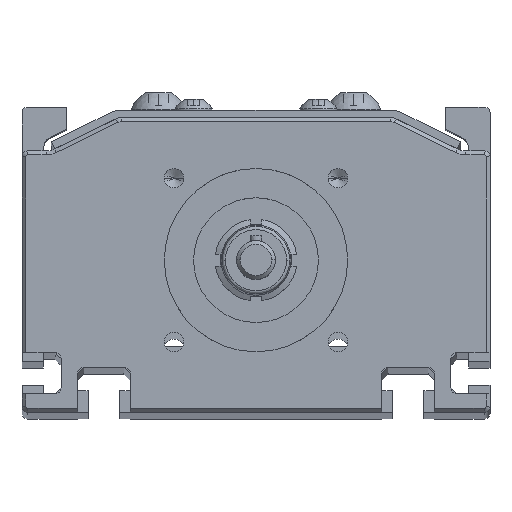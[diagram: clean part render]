
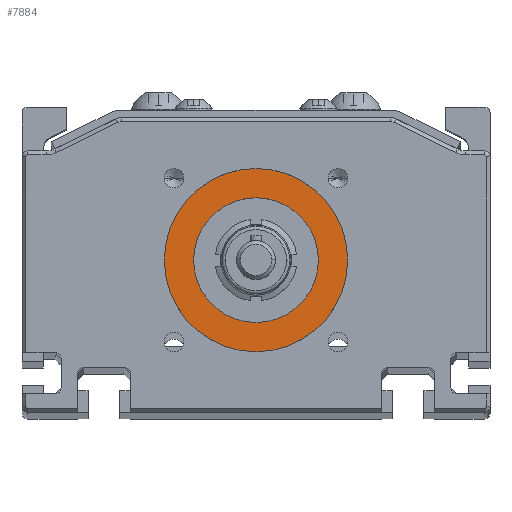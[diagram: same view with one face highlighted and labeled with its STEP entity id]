
A CAD part, top view. The second image highlights one B-rep face of the part: STEP entity #7884.
In plain terms, the highlighted planar face has unit normal (0, 0, 1).
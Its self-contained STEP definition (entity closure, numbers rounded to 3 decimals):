
#207 = CIRCLE ( 'NONE', #16139, 23.5 ) ;
#405 = VERTEX_POINT ( 'NONE', #8990 ) ;
#537 = CARTESIAN_POINT ( 'NONE',  ( 0., 39., 9.5 ) ) ;
#1051 = AXIS2_PLACEMENT_3D ( 'NONE', #537, #1780, #7657 ) ;
#1620 = ORIENTED_EDGE ( 'NONE', *, *, #5560, .T. ) ;
#1780 = DIRECTION ( 'NONE',  ( 0., 0., 1. ) ) ;
#1968 = PLANE ( 'NONE',  #1051 ) ;
#2475 = VERTEX_POINT ( 'NONE', #11526 ) ;
#3415 = DIRECTION ( 'NONE',  ( 0., 0., 1. ) ) ;
#4456 = CARTESIAN_POINT ( 'NONE',  ( 16., 39., 9.5 ) ) ;
#4721 = ORIENTED_EDGE ( 'NONE', *, *, #15764, .T. ) ;
#5560 = EDGE_CURVE ( 'NONE', #10698, #405, #207, .T. ) ;
#5716 = CIRCLE ( 'NONE', #8199, 16. ) ;
#5773 = AXIS2_PLACEMENT_3D ( 'NONE', #13269, #3415, #10816 ) ;
#5812 = AXIS2_PLACEMENT_3D ( 'NONE', #8297, #6937, #11165 ) ;
#6937 = DIRECTION ( 'NONE',  ( 0., 0., 1. ) ) ;
#7657 = DIRECTION ( 'NONE',  ( 1., 0., 0. ) ) ;
#7884 = ADVANCED_FACE ( 'NONE', ( #9015, #14940 ), #1968, .T. ) ;
#7986 = DIRECTION ( 'NONE',  ( 0., 0., 1. ) ) ;
#8199 = AXIS2_PLACEMENT_3D ( 'NONE', #9426, #7986, #11150 ) ;
#8297 = CARTESIAN_POINT ( 'NONE',  ( 0., 39., 9.5 ) ) ;
#8990 = CARTESIAN_POINT ( 'NONE',  ( -23.5, 39., 9.5 ) ) ;
#9013 = EDGE_CURVE ( 'NONE', #2475, #15628, #12833, .T. ) ;
#9015 = FACE_BOUND ( 'NONE', #13852, .T. ) ;
#9206 = CIRCLE ( 'NONE', #5812, 23.5 ) ;
#9426 = CARTESIAN_POINT ( 'NONE',  ( 0., 39., 9.5 ) ) ;
#9636 = EDGE_LOOP ( 'NONE', ( #1620, #4721 ) ) ;
#10698 = VERTEX_POINT ( 'NONE', #11122 ) ;
#10816 = DIRECTION ( 'NONE',  ( 1., 0., 0. ) ) ;
#11122 = CARTESIAN_POINT ( 'NONE',  ( 23.5, 39., 9.5 ) ) ;
#11150 = DIRECTION ( 'NONE',  ( 1., 0., 0. ) ) ;
#11165 = DIRECTION ( 'NONE',  ( 1., 0., 0. ) ) ;
#11526 = CARTESIAN_POINT ( 'NONE',  ( -16., 39., 9.5 ) ) ;
#11887 = DIRECTION ( 'NONE',  ( 0., 0., 1. ) ) ;
#12833 = CIRCLE ( 'NONE', #5773, 16. ) ;
#13269 = CARTESIAN_POINT ( 'NONE',  ( 0., 39., 9.5 ) ) ;
#13683 = DIRECTION ( 'NONE',  ( 1., 0., 0. ) ) ;
#13852 = EDGE_LOOP ( 'NONE', ( #14607, #14466 ) ) ;
#14358 = EDGE_CURVE ( 'NONE', #15628, #2475, #5716, .T. ) ;
#14466 = ORIENTED_EDGE ( 'NONE', *, *, #9013, .F. ) ;
#14607 = ORIENTED_EDGE ( 'NONE', *, *, #14358, .F. ) ;
#14940 = FACE_OUTER_BOUND ( 'NONE', #9636, .T. ) ;
#15628 = VERTEX_POINT ( 'NONE', #4456 ) ;
#15764 = EDGE_CURVE ( 'NONE', #405, #10698, #9206, .T. ) ;
#16098 = CARTESIAN_POINT ( 'NONE',  ( 0., 39., 9.5 ) ) ;
#16139 = AXIS2_PLACEMENT_3D ( 'NONE', #16098, #11887, #13683 ) ;
